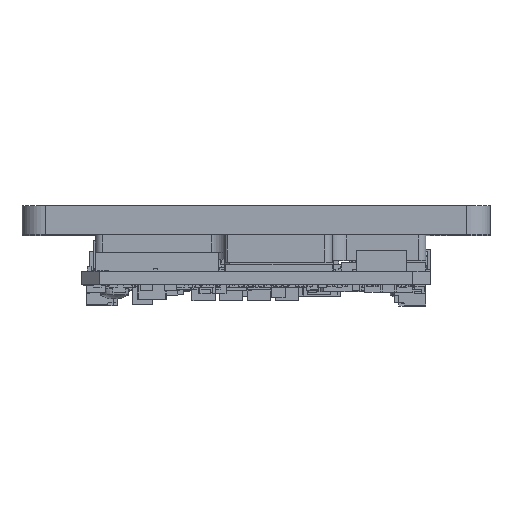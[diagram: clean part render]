
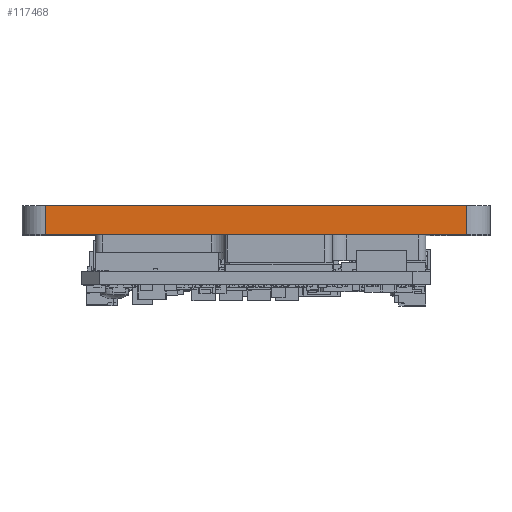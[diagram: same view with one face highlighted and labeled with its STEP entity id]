
A CAD part, top view. The second image highlights one B-rep face of the part: STEP entity #117468.
In plain terms, the highlighted planar face has unit normal (0, 0, 1).
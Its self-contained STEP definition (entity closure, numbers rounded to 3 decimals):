
#125 = EDGE_CURVE ( 'NONE', #115407, #5642, #107376, .T. ) ;
#2030 = EDGE_LOOP ( 'NONE', ( #95334, #63872, #131542, #88933 ) ) ;
#3554 = FACE_OUTER_BOUND ( 'NONE', #2030, .T. ) ;
#5642 = VERTEX_POINT ( 'NONE', #30923 ) ;
#14470 = VECTOR ( 'NONE', #96709, 1000. ) ;
#15189 = CARTESIAN_POINT ( 'NONE',  ( -24.5, 14., 29.5 ) ) ;
#30923 = CARTESIAN_POINT ( 'NONE',  ( -28.5, 18., 29.5 ) ) ;
#43825 = DIRECTION ( 'NONE',  ( 0., 1., 0. ) ) ;
#47326 = VECTOR ( 'NONE', #70069, 1000. ) ;
#54971 = CARTESIAN_POINT ( 'NONE',  ( 29.5, 18., 29.5 ) ) ;
#59359 = CARTESIAN_POINT ( 'NONE',  ( -24.5, 18., 29.5 ) ) ;
#60661 = DIRECTION ( 'NONE',  ( 0., 0., 1. ) ) ;
#60852 = DIRECTION ( 'NONE',  ( 0., -1., 0. ) ) ;
#63872 = ORIENTED_EDGE ( 'NONE', *, *, #91945, .T. ) ;
#70069 = DIRECTION ( 'NONE',  ( -1., 0., 0. ) ) ;
#72746 = CARTESIAN_POINT ( 'NONE',  ( 29.5, 14., 29.5 ) ) ;
#78154 = CARTESIAN_POINT ( 'NONE',  ( 29.5, 3.598, 29.5 ) ) ;
#83751 = LINE ( 'NONE', #108112, #95625 ) ;
#88933 = ORIENTED_EDGE ( 'NONE', *, *, #139920, .T. ) ;
#91945 = EDGE_CURVE ( 'NONE', #5642, #101004, #83751, .T. ) ;
#93010 = VECTOR ( 'NONE', #43825, 1000. ) ;
#94992 = DIRECTION ( 'NONE',  ( 1., 0., 0. ) ) ;
#95334 = ORIENTED_EDGE ( 'NONE', *, *, #125, .T. ) ;
#95625 = VECTOR ( 'NONE', #60852, 1000. ) ;
#96709 = DIRECTION ( 'NONE',  ( -1., 0., 0. ) ) ;
#101004 = VERTEX_POINT ( 'NONE', #131432 ) ;
#107376 = LINE ( 'NONE', #59359, #14470 ) ;
#108112 = CARTESIAN_POINT ( 'NONE',  ( -28.5, 28.391, 29.5 ) ) ;
#108150 = LINE ( 'NONE', #15189, #47326 ) ;
#115407 = VERTEX_POINT ( 'NONE', #54971 ) ;
#117468 = ADVANCED_FACE ( 'NONE', ( #3554 ), #118592, .T. ) ;
#118592 = PLANE ( 'NONE',  #119125 ) ;
#119125 = AXIS2_PLACEMENT_3D ( 'NONE', #142941, #60661, #94992 ) ;
#123815 = EDGE_CURVE ( 'NONE', #127390, #101004, #108150, .T. ) ;
#127390 = VERTEX_POINT ( 'NONE', #72746 ) ;
#131432 = CARTESIAN_POINT ( 'NONE',  ( -28.5, 14., 29.5 ) ) ;
#131542 = ORIENTED_EDGE ( 'NONE', *, *, #123815, .F. ) ;
#135320 = LINE ( 'NONE', #78154, #93010 ) ;
#139920 = EDGE_CURVE ( 'NONE', #127390, #115407, #135320, .T. ) ;
#142941 = CARTESIAN_POINT ( 'NONE',  ( -24.5, 25., 29.5 ) ) ;
